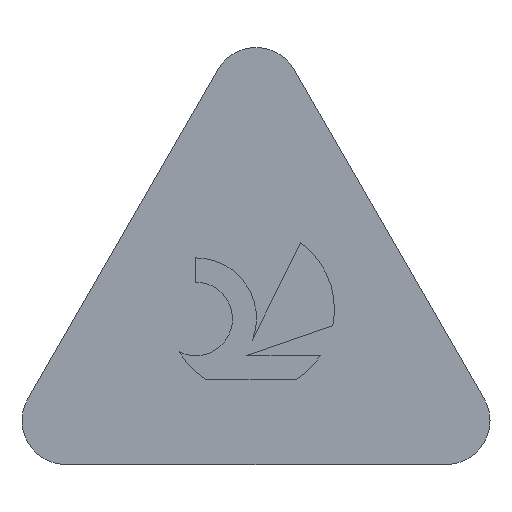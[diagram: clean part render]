
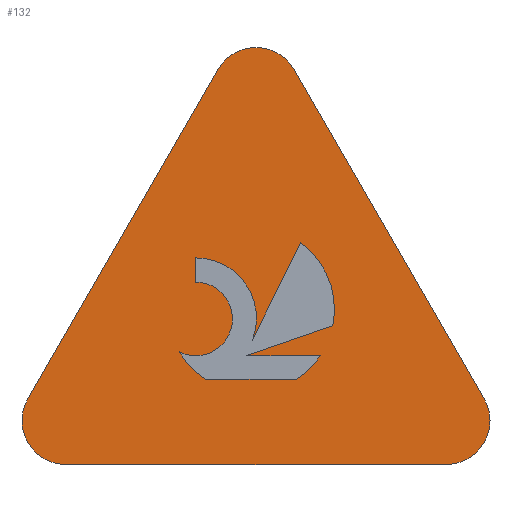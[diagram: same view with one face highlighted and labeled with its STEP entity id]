
A CAD part, top view. The second image highlights one B-rep face of the part: STEP entity #132.
In plain terms, the highlighted planar face has unit normal (0, 0, 1).
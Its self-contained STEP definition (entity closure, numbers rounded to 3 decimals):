
#130=EDGE_CURVE('',#172,#140,#358,.T.);
#132=ADVANCED_FACE('',(#360,#361),#362,.T.);
#134=EDGE_CURVE('',#332,#256,#364,.T.);
#140=VERTEX_POINT('',#370);
#152=VERTEX_POINT('',#385);
#158=VERTEX_POINT('',#391);
#166=VERTEX_POINT('',#401);
#168=EDGE_CURVE('',#182,#196,#403,.T.);
#172=VERTEX_POINT('',#407);
#182=VERTEX_POINT('',#418);
#188=EDGE_CURVE('',#220,#262,#424,.T.);
#196=VERTEX_POINT('',#434);
#204=VERTEX_POINT('',#442);
#218=EDGE_CURVE('',#256,#172,#457,.T.);
#220=VERTEX_POINT('',#459);
#226=EDGE_CURVE('',#242,#158,#466,.T.);
#234=VERTEX_POINT('',#475);
#236=EDGE_CURVE('',#234,#332,#477,.T.);
#242=VERTEX_POINT('',#483);
#256=VERTEX_POINT('',#500);
#262=VERTEX_POINT('',#506);
#266=EDGE_CURVE('',#274,#234,#510,.T.);
#274=VERTEX_POINT('',#520);
#280=VERTEX_POINT('',#526);
#282=EDGE_CURVE('',#158,#152,#528,.T.);
#286=EDGE_CURVE('',#196,#204,#532,.T.);
#290=EDGE_CURVE('',#166,#306,#536,.T.);
#296=EDGE_CURVE('',#262,#280,#542,.T.);
#302=EDGE_CURVE('',#306,#220,#548,.T.);
#306=VERTEX_POINT('',#553);
#312=EDGE_CURVE('',#140,#166,#560,.T.);
#322=EDGE_CURVE('',#152,#182,#570,.T.);
#332=VERTEX_POINT('',#581);
#336=EDGE_CURVE('',#204,#242,#585,.T.);
#338=EDGE_CURVE('',#280,#274,#587,.T.);
#358=CIRCLE('',#598,1.508);
#360=FACE_BOUND('',#600,.T.);
#361=FACE_OUTER_BOUND('',#601,.T.);
#362=PLANE('',#602);
#364=CIRCLE('',#605,1.096);
#370=CARTESIAN_POINT('',(6.2,2.509,0.0));
#385=CARTESIAN_POINT('',(0.688,1.191,0.0));
#391=CARTESIAN_POINT('',(4.124,7.143,0.0));
#401=CARTESIAN_POINT('',(4.645,1.969,0.0));
#403=LINE('',#651,#652);
#407=CARTESIAN_POINT('',(5.619,4.016,0.0));
#418=CARTESIAN_POINT('',(1.375,0.0,0.0));
#424=LINE('',#684,#685);
#434=CARTESIAN_POINT('',(8.248,0.0,0.0));
#442=CARTESIAN_POINT('',(8.936,1.191,0.0));
#457=LINE('',#733,#734);
#459=CARTESIAN_POINT('',(5.543,1.54,0.0));
#466=CIRCLE('',#744,0.794);
#475=CARTESIAN_POINT('',(3.716,3.299,0.0));
#477=LINE('',#758,#759);
#483=CARTESIAN_POINT('',(5.499,7.143,0.0));
#500=CARTESIAN_POINT('',(4.747,2.247,0.0));
#506=CARTESIAN_POINT('',(3.9,1.54,0.0));
#510=CIRCLE('',#800,0.666);
#520=CARTESIAN_POINT('',(4.018,3.228,0.0));
#526=CARTESIAN_POINT('',(3.423,2.038,0.0));
#528=LINE('',#821,#822);
#532=CIRCLE('',#829,0.794);
#536=LINE('',#836,#837);
#542=CIRCLE('',#847,1.508);
#548=CIRCLE('',#856,1.508);
#553=CARTESIAN_POINT('',(5.977,1.969,0.0));
#560=LINE('',#869,#870);
#570=CIRCLE('',#885,0.794);
#581=CARTESIAN_POINT('',(3.716,3.736,0.0));
#585=LINE('',#904,#905);
#587=CIRCLE('',#908,0.666);
#598=AXIS2_PLACEMENT_3D('',#913,#914,#915);
#600=EDGE_LOOP('',(#917,#918,#919,#920,#921,#922,#923,#924,#925,#926,#927));
#601=EDGE_LOOP('',(#928,#929,#930,#931,#932,#933));
#602=AXIS2_PLACEMENT_3D('',#934,#935,#936);
#605=AXIS2_PLACEMENT_3D('',#937,#938,#939);
#651=CARTESIAN_POINT('',(1.375,0.0,0.0));
#652=VECTOR('',#983,1.0);
#684=CARTESIAN_POINT('',(4.356,1.54,0.0));
#685=VECTOR('',#999,1.0);
#733=CARTESIAN_POINT('',(5.295,3.358,0.0));
#734=VECTOR('',#1036,1.0);
#744=AXIS2_PLACEMENT_3D('',#1052,#1053,#1054);
#758=CARTESIAN_POINT('',(3.716,3.257,0.0));
#759=VECTOR('',#1064,1.0);
#800=AXIS2_PLACEMENT_3D('',#1095,#1096,#1097);
#821=CARTESIAN_POINT('',(4.124,7.143,0.0));
#822=VECTOR('',#1119,1.0);
#829=AXIS2_PLACEMENT_3D('',#1121,#1122,#1123);
#836=CARTESIAN_POINT('',(5.394,1.969,0.0));
#837=VECTOR('',#1125,1.0);
#847=AXIS2_PLACEMENT_3D('',#1130,#1131,#1132);
#856=AXIS2_PLACEMENT_3D('',#1139,#1140,#1141);
#869=CARTESIAN_POINT('',(4.845,2.038,0.0));
#870=VECTOR('',#1158,1.0);
#885=AXIS2_PLACEMENT_3D('',#1161,#1162,#1163);
#904=CARTESIAN_POINT('',(8.936,1.191,0.0));
#905=VECTOR('',#1176,1.0);
#908=AXIS2_PLACEMENT_3D('',#1177,#1178,#1179);
#913=CARTESIAN_POINT('',(4.721,2.804,0.0));
#914=DIRECTION('',(0.0,-0.0,-1.0));
#915=DIRECTION('',(0.981,-0.196,0.0));
#917=ORIENTED_EDGE('',*,*,#236,.T.);
#918=ORIENTED_EDGE('',*,*,#134,.T.);
#919=ORIENTED_EDGE('',*,*,#218,.T.);
#920=ORIENTED_EDGE('',*,*,#130,.T.);
#921=ORIENTED_EDGE('',*,*,#312,.T.);
#922=ORIENTED_EDGE('',*,*,#290,.T.);
#923=ORIENTED_EDGE('',*,*,#302,.T.);
#924=ORIENTED_EDGE('',*,*,#188,.T.);
#925=ORIENTED_EDGE('',*,*,#296,.T.);
#926=ORIENTED_EDGE('',*,*,#338,.T.);
#927=ORIENTED_EDGE('',*,*,#266,.T.);
#928=ORIENTED_EDGE('',*,*,#168,.T.);
#929=ORIENTED_EDGE('',*,*,#286,.T.);
#930=ORIENTED_EDGE('',*,*,#336,.T.);
#931=ORIENTED_EDGE('',*,*,#226,.T.);
#932=ORIENTED_EDGE('',*,*,#282,.T.);
#933=ORIENTED_EDGE('',*,*,#322,.T.);
#934=CARTESIAN_POINT('',(4.812,2.778,0.0));
#935=DIRECTION('',(0.0,0.0,1.0));
#936=DIRECTION('',(1.0,0.0,0.0));
#937=CARTESIAN_POINT('',(3.725,2.641,0.0));
#938=DIRECTION('',(0.0,-0.0,-1.0));
#939=DIRECTION('',(0.933,-0.359,0.0));
#983=DIRECTION('',(1.0,0.0,0.0));
#999=DIRECTION('',(-1.0,0.0,0.0));
#1036=DIRECTION('',(0.442,0.897,-0.0));
#1052=CARTESIAN_POINT('',(4.812,6.746,0.0));
#1053=DIRECTION('',(0.0,-0.0,1.0));
#1054=DIRECTION('',(0.866,0.5,0.0));
#1064=DIRECTION('',(0.0,1.0,0.0));
#1095=CARTESIAN_POINT('',(3.72,2.633,0.0));
#1096=DIRECTION('',(0.0,0.0,1.0));
#1097=DIRECTION('',(-0.447,-0.894,0.0));
#1119=DIRECTION('',(-0.5,-0.866,0.0));
#1121=CARTESIAN_POINT('',(8.248,0.794,0.0));
#1122=DIRECTION('',(0.0,0.0,1.0));
#1123=DIRECTION('',(0.,-1.0,0.0));
#1125=DIRECTION('',(1.0,0.0,0.0));
#1130=CARTESIAN_POINT('',(4.721,2.804,0.0));
#1131=DIRECTION('',(-0.0,0.0,-1.0));
#1132=DIRECTION('',(-0.861,-0.508,0.0));
#1139=CARTESIAN_POINT('',(4.721,2.804,0.0));
#1140=DIRECTION('',(0.0,-0.0,-1.0));
#1141=DIRECTION('',(0.545,-0.838,0.0));
#1158=DIRECTION('',(-0.945,-0.328,0.0));
#1161=CARTESIAN_POINT('',(1.375,0.794,0.0));
#1162=DIRECTION('',(0.0,0.0,1.0));
#1163=DIRECTION('',(-0.866,0.5,0.0));
#1176=DIRECTION('',(-0.5,0.866,0.0));
#1177=CARTESIAN_POINT('',(3.72,2.633,0.0));
#1178=DIRECTION('',(0.0,0.0,1.0));
#1179=DIRECTION('',(-0.447,-0.894,0.0));
